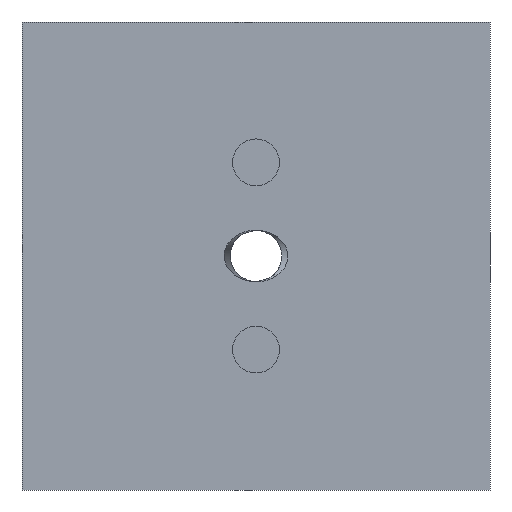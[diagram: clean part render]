
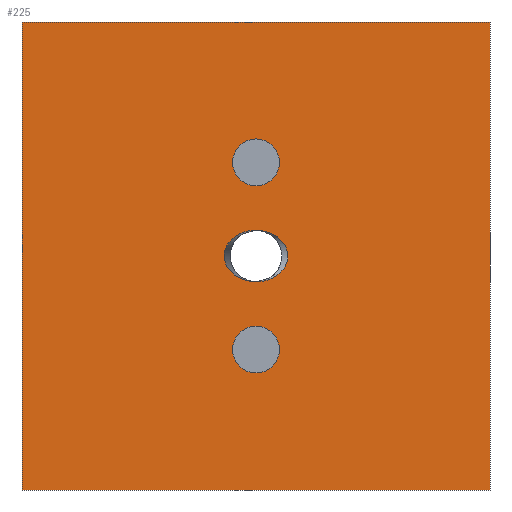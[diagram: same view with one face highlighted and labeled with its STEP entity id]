
A CAD part, front view. The second image highlights one B-rep face of the part: STEP entity #225.
In plain terms, the highlighted planar face has unit normal (0, -1, 0).
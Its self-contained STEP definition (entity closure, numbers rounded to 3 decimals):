
#15=FACE_BOUND('',#51,.T.);
#16=FACE_BOUND('',#52,.T.);
#17=FACE_BOUND('',#53,.T.);
#21=PLANE('',#261);
#30=CIRCLE('',#262,0.5);
#31=CIRCLE('',#263,0.5);
#37=FACE_OUTER_BOUND('',#50,.T.);
#50=EDGE_LOOP('',(#176,#177,#178,#179));
#51=EDGE_LOOP('',(#180,#181));
#52=EDGE_LOOP('',(#182));
#53=EDGE_LOOP('',(#183));
#69=LINE('',#372,#86);
#70=LINE('',#374,#87);
#71=LINE('',#376,#88);
#72=LINE('',#377,#89);
#86=VECTOR('',#306,10.);
#87=VECTOR('',#307,10.);
#88=VECTOR('',#308,10.);
#89=VECTOR('',#309,10.);
#100=ELLIPSE('',#250,0.68,0.55);
#107=ELLIPSE('',#260,0.68,0.55);
#108=VERTEX_POINT('',#348);
#109=VERTEX_POINT('',#349);
#115=VERTEX_POINT('',#370);
#116=VERTEX_POINT('',#371);
#117=VERTEX_POINT('',#373);
#118=VERTEX_POINT('',#375);
#119=VERTEX_POINT('',#378);
#120=VERTEX_POINT('',#380);
#127=EDGE_CURVE('',#108,#109,#100,.T.);
#138=EDGE_CURVE('',#109,#108,#107,.T.);
#139=EDGE_CURVE('',#115,#116,#69,.T.);
#140=EDGE_CURVE('',#116,#117,#70,.T.);
#141=EDGE_CURVE('',#118,#117,#71,.T.);
#142=EDGE_CURVE('',#115,#118,#72,.T.);
#143=EDGE_CURVE('',#119,#119,#30,.T.);
#144=EDGE_CURVE('',#120,#120,#31,.T.);
#176=ORIENTED_EDGE('',*,*,#139,.T.);
#177=ORIENTED_EDGE('',*,*,#140,.T.);
#178=ORIENTED_EDGE('',*,*,#141,.F.);
#179=ORIENTED_EDGE('',*,*,#142,.F.);
#180=ORIENTED_EDGE('',*,*,#127,.T.);
#181=ORIENTED_EDGE('',*,*,#138,.T.);
#182=ORIENTED_EDGE('',*,*,#143,.T.);
#183=ORIENTED_EDGE('',*,*,#144,.T.);
#225=ADVANCED_FACE('',(#37,#15,#16,#17),#21,.T.);
#250=AXIS2_PLACEMENT_3D('',#350,#279,#280);
#260=AXIS2_PLACEMENT_3D('',#368,#302,#303);
#261=AXIS2_PLACEMENT_3D('',#369,#304,#305);
#262=AXIS2_PLACEMENT_3D('',#379,#310,#311);
#263=AXIS2_PLACEMENT_3D('',#381,#312,#313);
#279=DIRECTION('center_axis',(0.,1.,0.));
#280=DIRECTION('ref_axis',(-1.,0.,0.));
#302=DIRECTION('center_axis',(0.,1.,0.));
#303=DIRECTION('ref_axis',(1.,0.,0.));
#304=DIRECTION('center_axis',(0.,-1.,0.));
#305=DIRECTION('ref_axis',(1.,0.,0.));
#306=DIRECTION('',(1.,0.,0.));
#307=DIRECTION('',(0.,0.,1.));
#308=DIRECTION('',(1.,0.,0.));
#309=DIRECTION('',(0.,0.,1.));
#310=DIRECTION('center_axis',(0.,1.,0.));
#311=DIRECTION('ref_axis',(1.,0.,0.));
#312=DIRECTION('center_axis',(0.,1.,0.));
#313=DIRECTION('ref_axis',(1.,0.,0.));
#348=CARTESIAN_POINT('',(0.,-5.25,4.45));
#349=CARTESIAN_POINT('',(0.,-5.25,5.55));
#350=CARTESIAN_POINT('Origin',(0.,-5.25,5.));
#368=CARTESIAN_POINT('Origin',(0.,-5.25,5.));
#369=CARTESIAN_POINT('Origin',(-5.,-5.25,0.));
#370=CARTESIAN_POINT('',(-5.,-5.25,0.));
#371=CARTESIAN_POINT('',(5.,-5.25,0.));
#372=CARTESIAN_POINT('',(-5.,-5.25,0.));
#373=CARTESIAN_POINT('',(5.,-5.25,10.));
#374=CARTESIAN_POINT('',(5.,-5.25,0.));
#375=CARTESIAN_POINT('',(-5.,-5.25,10.));
#376=CARTESIAN_POINT('',(-5.,-5.25,10.));
#377=CARTESIAN_POINT('',(-5.,-5.25,0.));
#378=CARTESIAN_POINT('',(-0.5,-5.25,7.));
#379=CARTESIAN_POINT('Origin',(0.,-5.25,7.));
#380=CARTESIAN_POINT('',(-0.5,-5.25,3.));
#381=CARTESIAN_POINT('Origin',(0.,-5.25,3.));
